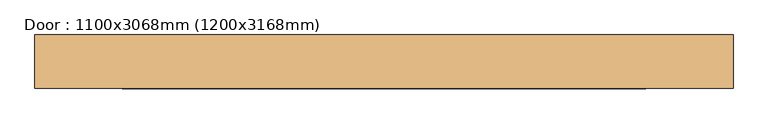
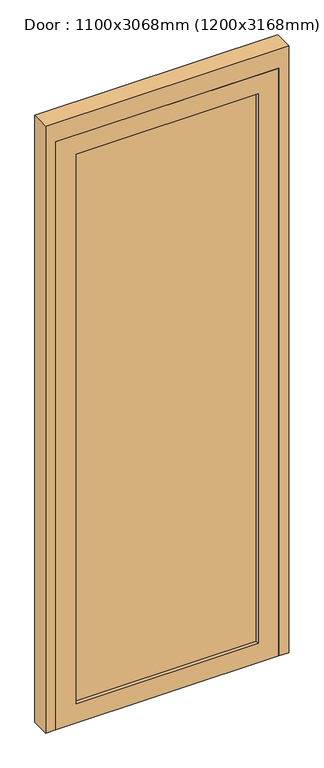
"""IFC4 building model written with IfcOpenShell, lengths in millimetres: door geometry, Door : 1100x3068mm (1200x3168mm)."""

from ifc_helpers import new_model, si_unit, frame, origin, place, context, project, spatial, polyline, outline, extrude, source, transform, mapped, element, save


def door_1100x3068mm_1200x3168mm_20ba0fd4(model_context):
    return source(origin(), model_context, "Body", "SweptSolid", [
        extrude(outline(polyline([(450.0, 205.0), (450.0, 153.0), (-450.0, 153.0), (-450.0, 205.0), (450.0, 205.0)])), frame((0.0, 0.0, 100.0), z_axis=(0.0, 0.0, 1.0), x_axis=(1.0, 0.0, 0.0)), (0.0, 0.0, 1.0), 2868.0),
        extrude(outline(polyline([(3068.0, 550.0), (3068.0, -550.0), (0.0, -550.0), (0.0, 550.0), (3068.0, 550.0)]), holes=[polyline([(2968.0, 450.0), (100.0, 450.0), (100.0, -450.0), (2968.0, -450.0), (2968.0, 450.0)])]), frame((0.0, 133.0, 0.0), z_axis=(0.0, 1.0, 0.0), x_axis=(0.0, 0.0, 1.0)), (0.0, 0.0, 1.0), 92.0),
        extrude(outline(polyline([(3168.0, -600.0), (0.0, -600.0), (0.0, -550.0), (3068.0, -550.0), (3068.0, 550.0), (0.0, 550.0), (0.0, 600.0), (3168.0, 600.0), (3168.0, -600.0)])), frame((0.0, 133.0, 0.0), z_axis=(0.0, 1.0, 0.0), x_axis=(0.0, 0.0, 1.0)), (0.0, 0.0, 1.0), 92.0),
    ])


if __name__ == "__main__":
    model = new_model("IFC4")
    model_context = context("Model", 3, world=origin())
    ifc_project = project(units=[si_unit("LENGTHUNIT", "METRE", prefix="MILLI")], contexts=[model_context])
    site = spatial("IfcSite", under=ifc_project)
    building = spatial("IfcBuilding", under=site)
    placement = place(None, origin())
    door_1100x3068mm_1200x3168mm_shape = door_1100x3068mm_1200x3168mm_20ba0fd4(model_context)
    element("IfcDoor", 1, ObjectType="Door : 1100x3068mm (1200x3168mm)", at=placement, inside=building, context=model_context, shape_type="MappedRepresentation", body=[
        mapped(door_1100x3068mm_1200x3168mm_shape, transform((0.0, 0.0, 0.0), x_axis=(1.0, 0.0, 0.0), y_axis=(0.0, 1.0, 0.0), z_axis=(0.0, 0.0, 1.0))),
    ])
    save(model, "model.ifc")
